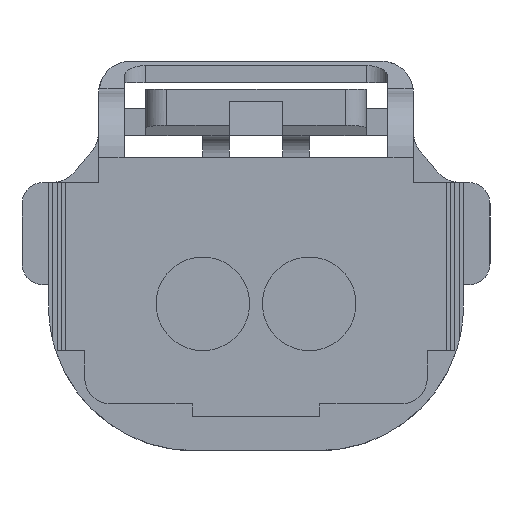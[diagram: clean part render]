
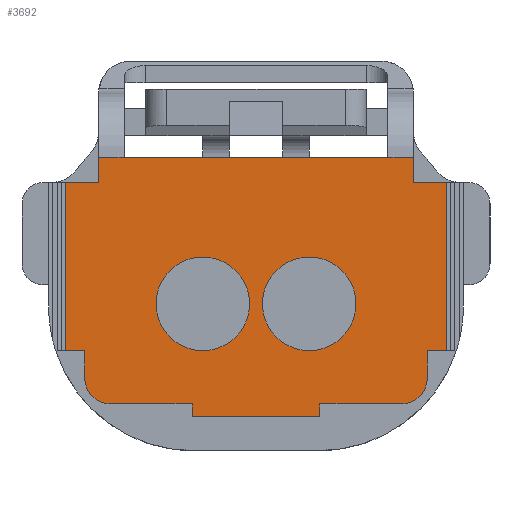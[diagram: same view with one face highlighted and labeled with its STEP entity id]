
A CAD part, left-side view. The second image highlights one B-rep face of the part: STEP entity #3692.
In plain terms, the highlighted planar face has unit normal (-1, 0, 0).
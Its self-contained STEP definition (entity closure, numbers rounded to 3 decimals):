
#1386=AXIS2_PLACEMENT_3D('Circle Axis2P3D',#1384,#1385,$) ;
#1502=AXIS2_PLACEMENT_3D('Circle Axis2P3D',#1500,#1501,$) ;
#1597=AXIS2_PLACEMENT_3D('Circle Axis2P3D',#1595,#1596,$) ;
#1623=AXIS2_PLACEMENT_3D('Circle Axis2P3D',#1621,#1622,$) ;
#1640=AXIS2_PLACEMENT_3D('Circle Axis2P3D',#1638,#1639,$) ;
#1666=AXIS2_PLACEMENT_3D('Circle Axis2P3D',#1664,#1665,$) ;
#3631=AXIS2_PLACEMENT_3D('Plane Axis2P3D',#3628,#3629,#3630) ;
#1341=CARTESIAN_POINT('Vertex',(-15.3,8.05,-4.6)) ;
#1344=CARTESIAN_POINT('Line Origine',(-15.3,8.05,-3.95)) ;
#1348=CARTESIAN_POINT('Vertex',(-15.3,8.05,-3.3)) ;
#1381=CARTESIAN_POINT('Vertex',(-15.3,6.85,-5.8)) ;
#1384=CARTESIAN_POINT('Axis2P3D Location',(-15.3,6.85,-4.6)) ;
#1412=CARTESIAN_POINT('Vertex',(-15.3,-8.05,-3.3)) ;
#1415=CARTESIAN_POINT('Line Origine',(-15.3,-8.05,-3.95)) ;
#1419=CARTESIAN_POINT('Vertex',(-15.3,-8.05,-4.6)) ;
#1450=CARTESIAN_POINT('Vertex',(-15.3,-3.,-5.8)) ;
#1457=CARTESIAN_POINT('Vertex',(-15.3,3.,-5.8)) ;
#1460=CARTESIAN_POINT('Line Origine',(-15.3,4.925,-5.8)) ;
#1476=CARTESIAN_POINT('Vertex',(-15.3,-6.85,-5.8)) ;
#1479=CARTESIAN_POINT('Line Origine',(-15.3,-4.925,-5.8)) ;
#1500=CARTESIAN_POINT('Axis2P3D Location',(-15.3,-6.85,-4.6)) ;
#1522=CARTESIAN_POINT('Line Origine',(-15.3,-3.,-6.1)) ;
#1526=CARTESIAN_POINT('Vertex',(-15.3,-3.,-6.4)) ;
#1550=CARTESIAN_POINT('Line Origine',(-15.3,0.,-6.4)) ;
#1554=CARTESIAN_POINT('Vertex',(-15.3,3.,-6.4)) ;
#1574=CARTESIAN_POINT('Line Origine',(-15.3,3.,-6.1)) ;
#1595=CARTESIAN_POINT('Axis2P3D Location',(-15.3,-2.5,-1.1)) ;
#1599=CARTESIAN_POINT('Vertex',(-15.3,-0.3,-1.1)) ;
#1601=CARTESIAN_POINT('Vertex',(-15.3,-4.7,-1.1)) ;
#1621=CARTESIAN_POINT('Axis2P3D Location',(-15.3,-2.5,-1.1)) ;
#1638=CARTESIAN_POINT('Axis2P3D Location',(-15.3,2.5,-1.1)) ;
#1642=CARTESIAN_POINT('Vertex',(-15.3,4.7,-1.1)) ;
#1644=CARTESIAN_POINT('Vertex',(-15.3,0.3,-1.1)) ;
#1664=CARTESIAN_POINT('Axis2P3D Location',(-15.3,2.5,-1.1)) ;
#2392=CARTESIAN_POINT('Vertex',(-15.3,-8.95,-3.3)) ;
#2395=CARTESIAN_POINT('Line Origine',(-15.3,-8.5,-3.3)) ;
#2631=CARTESIAN_POINT('Vertex',(-15.3,7.4,5.8)) ;
#2634=CARTESIAN_POINT('Line Origine',(-15.3,0.,5.8)) ;
#2638=CARTESIAN_POINT('Vertex',(-15.3,6.2,5.8)) ;
#2702=CARTESIAN_POINT('Vertex',(-15.3,-6.2,5.8)) ;
#2705=CARTESIAN_POINT('Line Origine',(-15.3,0.,5.8)) ;
#2709=CARTESIAN_POINT('Vertex',(-15.3,-7.4,5.8)) ;
#2768=CARTESIAN_POINT('Vertex',(-15.3,-8.95,4.6)) ;
#2771=CARTESIAN_POINT('Line Origine',(-15.3,-8.95,0.65)) ;
#3304=CARTESIAN_POINT('Line Origine',(-15.3,8.5,-3.3)) ;
#3308=CARTESIAN_POINT('Vertex',(-15.3,8.95,-3.3)) ;
#3465=CARTESIAN_POINT('Line Origine',(-15.3,8.95,0.65)) ;
#3469=CARTESIAN_POINT('Vertex',(-15.3,8.95,4.6)) ;
#3628=CARTESIAN_POINT('Axis2P3D Location',(-15.3,0.,0.)) ;
#3633=CARTESIAN_POINT('Line Origine',(-15.3,0.,5.8)) ;
#3638=CARTESIAN_POINT('Line Origine',(-15.3,7.4,5.2)) ;
#3642=CARTESIAN_POINT('Vertex',(-15.3,7.4,4.6)) ;
#3645=CARTESIAN_POINT('Line Origine',(-15.3,8.175,4.6)) ;
#3650=CARTESIAN_POINT('Line Origine',(-15.3,-8.175,4.6)) ;
#3654=CARTESIAN_POINT('Vertex',(-15.3,-7.4,4.6)) ;
#3657=CARTESIAN_POINT('Line Origine',(-15.3,-7.4,5.2)) ;
#1345=DIRECTION('Vector Direction',(0.,0.,-1.)) ;
#1385=DIRECTION('Axis2P3D Direction',(-1.,0.,0.)) ;
#1416=DIRECTION('Vector Direction',(0.,0.,1.)) ;
#1461=DIRECTION('Vector Direction',(0.,1.,0.)) ;
#1480=DIRECTION('Vector Direction',(0.,1.,0.)) ;
#1501=DIRECTION('Axis2P3D Direction',(-1.,0.,0.)) ;
#1523=DIRECTION('Vector Direction',(0.,0.,-1.)) ;
#1551=DIRECTION('Vector Direction',(0.,1.,0.)) ;
#1575=DIRECTION('Vector Direction',(0.,0.,-1.)) ;
#1596=DIRECTION('Axis2P3D Direction',(-1.,0.,0.)) ;
#1622=DIRECTION('Axis2P3D Direction',(-1.,0.,0.)) ;
#1639=DIRECTION('Axis2P3D Direction',(-1.,0.,0.)) ;
#1665=DIRECTION('Axis2P3D Direction',(-1.,0.,0.)) ;
#2396=DIRECTION('Vector Direction',(0.,1.,0.)) ;
#2635=DIRECTION('Vector Direction',(0.,1.,0.)) ;
#2706=DIRECTION('Vector Direction',(0.,1.,0.)) ;
#2772=DIRECTION('Vector Direction',(0.,0.,1.)) ;
#3305=DIRECTION('Vector Direction',(0.,1.,0.)) ;
#3466=DIRECTION('Vector Direction',(0.,0.,1.)) ;
#3629=DIRECTION('Axis2P3D Direction',(1.,0.,0.)) ;
#3630=DIRECTION('Axis2P3D XDirection',(0.,1.,0.)) ;
#3634=DIRECTION('Vector Direction',(0.,-1.,0.)) ;
#3639=DIRECTION('Vector Direction',(0.,0.,1.)) ;
#3646=DIRECTION('Vector Direction',(0.,-1.,0.)) ;
#3651=DIRECTION('Vector Direction',(0.,-1.,0.)) ;
#3658=DIRECTION('Vector Direction',(0.,0.,1.)) ;
#1346=VECTOR('Line Direction',#1345,1.) ;
#1417=VECTOR('Line Direction',#1416,1.) ;
#1462=VECTOR('Line Direction',#1461,1.) ;
#1481=VECTOR('Line Direction',#1480,1.) ;
#1524=VECTOR('Line Direction',#1523,1.) ;
#1552=VECTOR('Line Direction',#1551,1.) ;
#1576=VECTOR('Line Direction',#1575,1.) ;
#2397=VECTOR('Line Direction',#2396,1.) ;
#2636=VECTOR('Line Direction',#2635,1.) ;
#2707=VECTOR('Line Direction',#2706,1.) ;
#2773=VECTOR('Line Direction',#2772,1.) ;
#3306=VECTOR('Line Direction',#3305,1.) ;
#3467=VECTOR('Line Direction',#3466,1.) ;
#3635=VECTOR('Line Direction',#3634,1.) ;
#3640=VECTOR('Line Direction',#3639,1.) ;
#3647=VECTOR('Line Direction',#3646,1.) ;
#3652=VECTOR('Line Direction',#3651,1.) ;
#3659=VECTOR('Line Direction',#3658,1.) ;
#3663=ORIENTED_EDGE('',*,*,#2711,.T.) ;
#3664=ORIENTED_EDGE('',*,*,#3637,.F.) ;
#3665=ORIENTED_EDGE('',*,*,#2640,.T.) ;
#3666=ORIENTED_EDGE('',*,*,#3644,.F.) ;
#3667=ORIENTED_EDGE('',*,*,#3649,.F.) ;
#3668=ORIENTED_EDGE('',*,*,#3471,.F.) ;
#3669=ORIENTED_EDGE('',*,*,#3310,.F.) ;
#3670=ORIENTED_EDGE('',*,*,#1350,.T.) ;
#3671=ORIENTED_EDGE('',*,*,#1388,.F.) ;
#3672=ORIENTED_EDGE('',*,*,#1464,.F.) ;
#3673=ORIENTED_EDGE('',*,*,#1578,.T.) ;
#3674=ORIENTED_EDGE('',*,*,#1556,.F.) ;
#3675=ORIENTED_EDGE('',*,*,#1528,.F.) ;
#3676=ORIENTED_EDGE('',*,*,#1483,.F.) ;
#3677=ORIENTED_EDGE('',*,*,#1504,.F.) ;
#3678=ORIENTED_EDGE('',*,*,#1421,.T.) ;
#3679=ORIENTED_EDGE('',*,*,#2399,.F.) ;
#3680=ORIENTED_EDGE('',*,*,#2775,.T.) ;
#3681=ORIENTED_EDGE('',*,*,#3656,.F.) ;
#3682=ORIENTED_EDGE('',*,*,#3661,.T.) ;
#3685=ORIENTED_EDGE('',*,*,#1625,.T.) ;
#3686=ORIENTED_EDGE('',*,*,#1603,.T.) ;
#3689=ORIENTED_EDGE('',*,*,#1668,.T.) ;
#3690=ORIENTED_EDGE('',*,*,#1646,.T.) ;
#3687=FACE_BOUND('',#3684,.T.) ;
#3691=FACE_BOUND('',#3688,.T.) ;
#3692=ADVANCED_FACE('\X2\FF8EFF9EFF83FF9EFF68FF70\X0\.5',(#3683,#3687,#3691),#3632,.F.) ;
#1387=CIRCLE('generated circle',#1386,1.2) ;
#1503=CIRCLE('generated circle',#1502,1.2) ;
#1598=CIRCLE('generated circle',#1597,2.2) ;
#1624=CIRCLE('generated circle',#1623,2.2) ;
#1641=CIRCLE('generated circle',#1640,2.2) ;
#1667=CIRCLE('generated circle',#1666,2.2) ;
#1350=EDGE_CURVE('',#1349,#1342,#1347,.T.) ;
#1388=EDGE_CURVE('',#1382,#1342,#1387,.F.) ;
#1421=EDGE_CURVE('',#1420,#1413,#1418,.T.) ;
#1464=EDGE_CURVE('',#1458,#1382,#1463,.T.) ;
#1483=EDGE_CURVE('',#1477,#1451,#1482,.T.) ;
#1504=EDGE_CURVE('',#1420,#1477,#1503,.F.) ;
#1528=EDGE_CURVE('',#1451,#1527,#1525,.T.) ;
#1556=EDGE_CURVE('',#1527,#1555,#1553,.T.) ;
#1578=EDGE_CURVE('',#1458,#1555,#1577,.T.) ;
#1603=EDGE_CURVE('',#1600,#1602,#1598,.F.) ;
#1625=EDGE_CURVE('',#1602,#1600,#1624,.F.) ;
#1646=EDGE_CURVE('',#1643,#1645,#1641,.F.) ;
#1668=EDGE_CURVE('',#1645,#1643,#1667,.F.) ;
#2399=EDGE_CURVE('',#2393,#1413,#2398,.T.) ;
#2640=EDGE_CURVE('',#2639,#2632,#2637,.T.) ;
#2711=EDGE_CURVE('',#2710,#2703,#2708,.T.) ;
#2775=EDGE_CURVE('',#2393,#2769,#2774,.T.) ;
#3310=EDGE_CURVE('',#1349,#3309,#3307,.T.) ;
#3471=EDGE_CURVE('',#3309,#3470,#3468,.T.) ;
#3637=EDGE_CURVE('',#2639,#2703,#3636,.T.) ;
#3644=EDGE_CURVE('',#3643,#2632,#3641,.T.) ;
#3649=EDGE_CURVE('',#3470,#3643,#3648,.T.) ;
#3656=EDGE_CURVE('',#3655,#2769,#3653,.T.) ;
#3661=EDGE_CURVE('',#3655,#2710,#3660,.T.) ;
#3662=EDGE_LOOP('',(#3663,#3664,#3665,#3666,#3667,#3668,#3669,#3670,#3671,#3672,#3673,#3674,#3675,#3676,#3677,#3678,#3679,#3680,#3681,#3682)) ;
#3684=EDGE_LOOP('',(#3685,#3686)) ;
#3688=EDGE_LOOP('',(#3689,#3690)) ;
#3683=FACE_OUTER_BOUND('',#3662,.T.) ;
#1347=LINE('Line',#1344,#1346) ;
#1418=LINE('Line',#1415,#1417) ;
#1463=LINE('Line',#1460,#1462) ;
#1482=LINE('Line',#1479,#1481) ;
#1525=LINE('Line',#1522,#1524) ;
#1553=LINE('Line',#1550,#1552) ;
#1577=LINE('Line',#1574,#1576) ;
#2398=LINE('Line',#2395,#2397) ;
#2637=LINE('Line',#2634,#2636) ;
#2708=LINE('Line',#2705,#2707) ;
#2774=LINE('Line',#2771,#2773) ;
#3307=LINE('Line',#3304,#3306) ;
#3468=LINE('Line',#3465,#3467) ;
#3636=LINE('Line',#3633,#3635) ;
#3641=LINE('Line',#3638,#3640) ;
#3648=LINE('Line',#3645,#3647) ;
#3653=LINE('Line',#3650,#3652) ;
#3660=LINE('Line',#3657,#3659) ;
#3632=PLANE('',#3631) ;
#1342=VERTEX_POINT('',#1341) ;
#1349=VERTEX_POINT('',#1348) ;
#1382=VERTEX_POINT('',#1381) ;
#1413=VERTEX_POINT('',#1412) ;
#1420=VERTEX_POINT('',#1419) ;
#1451=VERTEX_POINT('',#1450) ;
#1458=VERTEX_POINT('',#1457) ;
#1477=VERTEX_POINT('',#1476) ;
#1527=VERTEX_POINT('',#1526) ;
#1555=VERTEX_POINT('',#1554) ;
#1600=VERTEX_POINT('',#1599) ;
#1602=VERTEX_POINT('',#1601) ;
#1643=VERTEX_POINT('',#1642) ;
#1645=VERTEX_POINT('',#1644) ;
#2393=VERTEX_POINT('',#2392) ;
#2632=VERTEX_POINT('',#2631) ;
#2639=VERTEX_POINT('',#2638) ;
#2703=VERTEX_POINT('',#2702) ;
#2710=VERTEX_POINT('',#2709) ;
#2769=VERTEX_POINT('',#2768) ;
#3309=VERTEX_POINT('',#3308) ;
#3470=VERTEX_POINT('',#3469) ;
#3643=VERTEX_POINT('',#3642) ;
#3655=VERTEX_POINT('',#3654) ;
